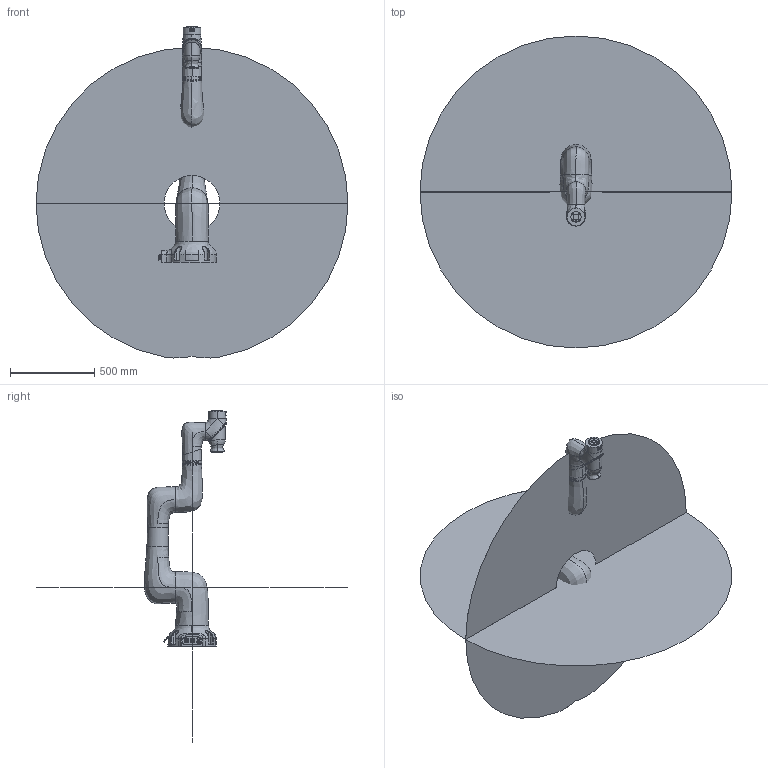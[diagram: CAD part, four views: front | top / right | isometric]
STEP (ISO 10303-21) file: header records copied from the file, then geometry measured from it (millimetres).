
FILE_DESCRIPTION (( 'STEP AP214' ), '1' );
FILE_NAME ('XMC18-R925 ｼｯﾄ｣ﾐﾍﾓﾐxpanel STP ﾓﾐLogo(20221124).STEP', '2022-11-25T02:52:41', ( '' ), ( '' ), 'SwSTEP 2.0', 'SolidWorks 2012', '' );
FILE_SCHEMA (( 'AUTOMOTIVE_DESIGN' ));
Products named in the file (9): XMC18-R925-shuchu; XMC18-R925-yao; XMC18-R925-xiaobihou; XMC18-R925-shouwan; XMC18-R925-dabi; XMC18-R925 ¼ò»¯Ä£ÐÍÓÐxpanel STP ÓÐLogo(20221124); XMC18-R925-xiaobiqian; XMC18-R925-base; XMC18-R925 馱釬諾潔
Assembly tree (8 placements, depth 2):
  XMC18-R925 ¼ò»¯Ä£ÐÍÓÐxpanel STP ÓÐLogo(20221124)
    XMC18-R925-base
    XMC18-R925-yao
    XMC18-R925-dabi
    XMC18-R925-xiaobiqian
    XMC18-R925-xiaobihou
    XMC18-R925-shouwan
    XMC18-R925-shuchu
    XMC18-R925 馱釬諾潔
Bounding box: 1850 x 1850 x 1968.75 mm (x, y, z)
Volume: 37384989.1 mm3; surface area: 11857679 mm2
Topology: 8 solids, 28 shells, 3941 faces, 10641 edges, 6920 vertices
Faces by surface type: plane 1914, cylinder 1068, bspline 602, cone 183, torus 133, sphere 41
Entity records: 160364 total; most frequent: CARTESIAN_POINT 65123, ORIENTED_EDGE 21190, DIRECTION 17486, EDGE_CURVE 10595, VERTEX_POINT 6904, LINE 6046, VECTOR 6046, AXIS2_PLACEMENT_3D 5720
